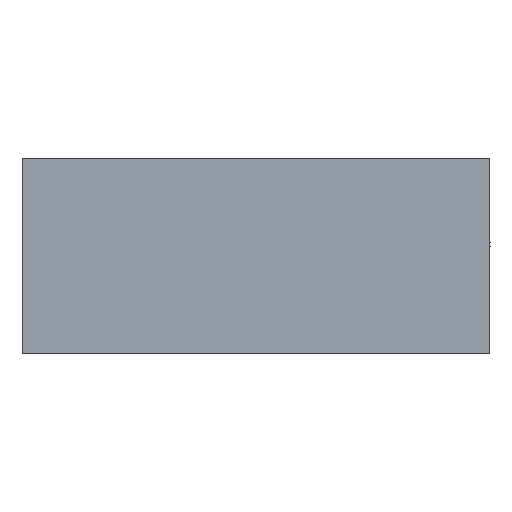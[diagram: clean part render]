
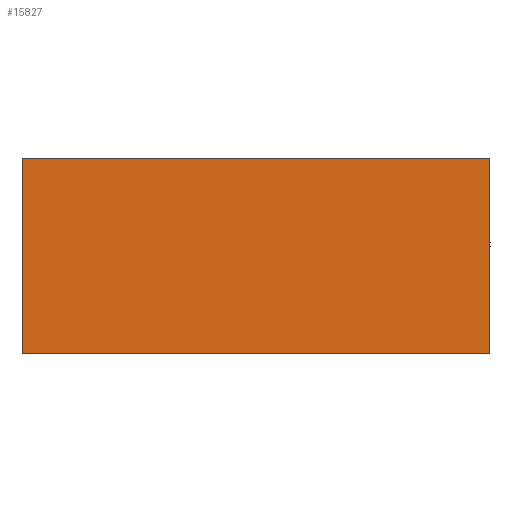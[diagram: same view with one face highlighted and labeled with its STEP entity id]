
A CAD part, front view. The second image highlights one B-rep face of the part: STEP entity #15827.
In plain terms, the highlighted planar face has unit normal (0, -1, 0).
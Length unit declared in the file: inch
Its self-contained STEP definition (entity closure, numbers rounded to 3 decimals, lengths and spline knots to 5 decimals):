
#952 = ORIENTED_EDGE ( 'NONE', *, *, #16739, .T. ) ;
#1352 = DIRECTION ( 'NONE',  ( 0., 0., 1. ) ) ;
#1377 = VECTOR ( 'NONE', #17899, 39.37008 ) ;
#1864 = LINE ( 'NONE', #5940, #9516 ) ;
#4526 = VECTOR ( 'NONE', #9482, 39.37008 ) ;
#5573 = ORIENTED_EDGE ( 'NONE', *, *, #16744, .F. ) ;
#5940 = CARTESIAN_POINT ( 'NONE',  ( 0., 0., 0. ) ) ;
#5990 = LINE ( 'NONE', #11885, #1377 ) ;
#6315 = EDGE_LOOP ( 'NONE', ( #952, #5573, #14962, #19396 ) ) ;
#6967 = VECTOR ( 'NONE', #10347, 39.37008 ) ;
#7486 = DIRECTION ( 'NONE',  ( 0., 0., -1. ) ) ;
#7520 = CARTESIAN_POINT ( 'NONE',  ( 0., 0., 0. ) ) ;
#8022 = CARTESIAN_POINT ( 'NONE',  ( 16.75, 0., 0. ) ) ;
#9017 = CARTESIAN_POINT ( 'NONE',  ( 16.75, 0., 0. ) ) ;
#9482 = DIRECTION ( 'NONE',  ( 0., 0., -1. ) ) ;
#9516 = VECTOR ( 'NONE', #7486, 39.37008 ) ;
#9657 = AXIS2_PLACEMENT_3D ( 'NONE', #9017, #10505, #1352 ) ;
#10031 = FACE_OUTER_BOUND ( 'NONE', #6315, .T. ) ;
#10347 = DIRECTION ( 'NONE',  ( -1., 0., 0. ) ) ;
#10505 = DIRECTION ( 'NONE',  ( 0., 1., 0. ) ) ;
#11761 = CARTESIAN_POINT ( 'NONE',  ( 16.75, 0., 0. ) ) ;
#11885 = CARTESIAN_POINT ( 'NONE',  ( 16.75, 0., -7. ) ) ;
#11894 = VERTEX_POINT ( 'NONE', #7520 ) ;
#12246 = VERTEX_POINT ( 'NONE', #14655 ) ;
#14655 = CARTESIAN_POINT ( 'NONE',  ( 0., 0., -7. ) ) ;
#14741 = VERTEX_POINT ( 'NONE', #11761 ) ;
#14962 = ORIENTED_EDGE ( 'NONE', *, *, #16766, .F. ) ;
#15827 = ADVANCED_FACE ( 'NONE', ( #10031 ), #17943, .F. ) ;
#16292 = CARTESIAN_POINT ( 'NONE',  ( 16.75, 0., 0. ) ) ;
#16552 = LINE ( 'NONE', #8022, #4526 ) ;
#16680 = EDGE_CURVE ( 'NONE', #14741, #11894, #18858, .T. ) ;
#16739 = EDGE_CURVE ( 'NONE', #11894, #12246, #1864, .T. ) ;
#16744 = EDGE_CURVE ( 'NONE', #19640, #12246, #5990, .T. ) ;
#16766 = EDGE_CURVE ( 'NONE', #14741, #19640, #16552, .T. ) ;
#17449 = CARTESIAN_POINT ( 'NONE',  ( 16.75, 0., -7. ) ) ;
#17899 = DIRECTION ( 'NONE',  ( -1., 0., 0. ) ) ;
#17943 = PLANE ( 'NONE',  #9657 ) ;
#18858 = LINE ( 'NONE', #16292, #6967 ) ;
#19396 = ORIENTED_EDGE ( 'NONE', *, *, #16680, .T. ) ;
#19640 = VERTEX_POINT ( 'NONE', #17449 ) ;
